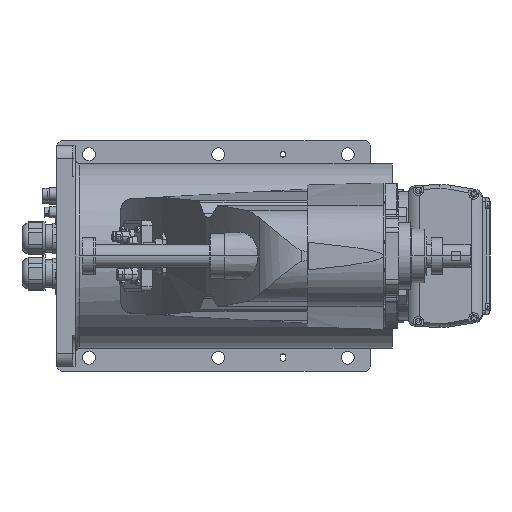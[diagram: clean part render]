
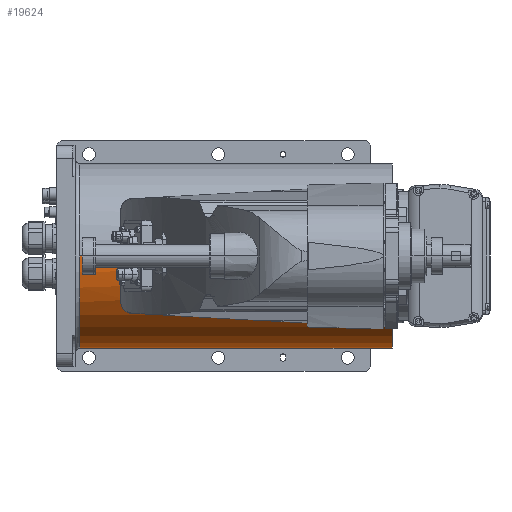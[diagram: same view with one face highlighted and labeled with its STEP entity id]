
A CAD part, left-side view. The second image highlights one B-rep face of the part: STEP entity #19624.
In plain terms, the highlighted cylindrical face has radius 100 mm (diameter 200 mm), a partial arc.
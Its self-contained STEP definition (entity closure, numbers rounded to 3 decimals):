
#9508 = VERTEX_POINT( '', #27935 );
#9622 = EDGE_CURVE( '', #22322, #19866, #28064, .T. );
#10168 = VERTEX_POINT( '', #28664 );
#11022 = VERTEX_POINT( '', #29621 );
#12300 = EDGE_CURVE( '', #12914, #17702, #31058, .T. );
#12550 = EDGE_CURVE( '', #21166, #11022, #31332, .T. );
#12914 = VERTEX_POINT( '', #31732 );
#13148 = EDGE_CURVE( '', #15780, #22428, #31994, .T. );
#14824 = EDGE_CURVE( '', #23386, #22322, #33875, .T. );
#15780 = VERTEX_POINT( '', #34934 );
#16878 = VERTEX_POINT( '', #36173 );
#17702 = VERTEX_POINT( '', #37079 );
#18442 = EDGE_CURVE( '', #21010, #25130, #37943, .T. );
#19118 = EDGE_CURVE( '', #17702, #25622, #38687, .T. );
#19624 = ADVANCED_FACE( '', ( #39234 ), #39235, .T. );
#19866 = VERTEX_POINT( '', #39503 );
#20016 = EDGE_CURVE( '', #11022, #16878, #39667, .T. );
#20558 = EDGE_CURVE( '', #22428, #10168, #40273, .T. );
#21010 = VERTEX_POINT( '', #40790 );
#21166 = VERTEX_POINT( '', #40963 );
#22184 = EDGE_CURVE( '', #23386, #25310, #42093, .T. );
#22322 = VERTEX_POINT( '', #42248 );
#22428 = VERTEX_POINT( '', #42367 );
#23104 = EDGE_CURVE( '', #25622, #25130, #43126, .T. );
#23386 = VERTEX_POINT( '', #43448 );
#23424 = EDGE_CURVE( '', #16878, #12914, #43487, .T. );
#23600 = EDGE_CURVE( '', #19866, #9508, #43688, .T. );
#25130 = VERTEX_POINT( '', #45421 );
#25310 = VERTEX_POINT( '', #45617 );
#25622 = VERTEX_POINT( '', #45962 );
#26014 = EDGE_CURVE( '', #21010, #25310, #46394, .T. );
#26042 = EDGE_CURVE( '', #10168, #9508, #46426, .T. );
#27152 = EDGE_CURVE( '', #15780, #21166, #47663, .T. );
#27935 = CARTESIAN_POINT( '', ( -100., 311.3, 0. ) );
#28064 = LINE( '', #48771, #48772 );
#28664 = CARTESIAN_POINT( '', ( -100., 363., 0. ) );
#29621 = CARTESIAN_POINT( '', ( 70.42, 64., -71. ) );
#31058 = CIRCLE( '', #53166, 100. );
#31332 = B_SPLINE_CURVE_WITH_KNOTS( '', 3, ( #53556, #53557, #53558, #53559, #53560, #53561, #53562, #53563, #53564, #53565, #53566, #53567, #53568, #53569, #53570, #53571, #53572, #53573 ), .UNSPECIFIED., .F., .F., ( 4, 2, 2, 2, 2, 2, 2, 2, 4 ), ( 0., 0.75, 1.5, 2.25, 3., 4.12, 5.24, 6.36, 7.48 ), .UNSPECIFIED. );
#31732 = CARTESIAN_POINT( '', ( 75.993, 62., -65. ) );
#31994 = CIRCLE( '', #54529, 100. );
#33875 = CIRCLE( '', #57241, 100. );
#34934 = CARTESIAN_POINT( '', ( 66.144, 363., -75. ) );
#36173 = CARTESIAN_POINT( '', ( 75.993, 64., -65. ) );
#37079 = CARTESIAN_POINT( '', ( 89.303, 62., -45. ) );
#37943 = LINE( '', #63008, #63009 );
#38687 = LINE( '', #64042, #64043 );
#39234 = FACE_OUTER_BOUND( '', #64823, .T. );
#39235 = CYLINDRICAL_SURFACE( '', #64824, 100. );
#39503 = CARTESIAN_POINT( '', ( -88., 311.3, -47.497 ) );
#39667 = CIRCLE( '', #65400, 100. );
#40273 = CIRCLE( '', #66299, 100. );
#40790 = CARTESIAN_POINT( '', ( 100., 25., 0. ) );
#40963 = CARTESIAN_POINT( '', ( 66.144, 68., -75. ) );
#42093 = LINE( '', #68926, #68927 );
#42248 = CARTESIAN_POINT( '', ( -88., 218.3, -47.497 ) );
#42367 = CARTESIAN_POINT( '', ( 0., 363., -100. ) );
#43126 = CIRCLE( '', #70465, 100. );
#43448 = CARTESIAN_POINT( '', ( -100., 218.3, 0. ) );
#43487 = LINE( '', #70941, #70942 );
#43688 = CIRCLE( '', #71201, 100. );
#45421 = CARTESIAN_POINT( '', ( 100., 64., 0. ) );
#45617 = CARTESIAN_POINT( '', ( -100., 25., 0. ) );
#45962 = CARTESIAN_POINT( '', ( 89.303, 64., -45. ) );
#46394 = CIRCLE( '', #75010, 100. );
#46426 = LINE( '', #75051, #75052 );
#47663 = LINE( '', #76868, #76869 );
#48771 = CARTESIAN_POINT( '', ( -88., 264.8, -47.497 ) );
#48772 = VECTOR( '', #78083, 1. );
#53166 = AXIS2_PLACEMENT_3D( '', #81519, #81520, #81521 );
#53556 = CARTESIAN_POINT( '', ( 66.144, 68., -75. ) );
#53557 = CARTESIAN_POINT( '', ( 66.144, 67.75, -75. ) );
#53558 = CARTESIAN_POINT( '', ( 66.171, 67.497, -74.976 ) );
#53559 = CARTESIAN_POINT( '', ( 66.277, 67.005, -74.882 ) );
#53560 = CARTESIAN_POINT( '', ( 66.356, 66.766, -74.812 ) );
#53561 = CARTESIAN_POINT( '', ( 66.555, 66.315, -74.636 ) );
#53562 = CARTESIAN_POINT( '', ( 66.674, 66.103, -74.529 ) );
#53563 = CARTESIAN_POINT( '', ( 66.938, 65.716, -74.292 ) );
#53564 = CARTESIAN_POINT( '', ( 67.082, 65.542, -74.162 ) );
#53565 = CARTESIAN_POINT( '', ( 67.446, 65.158, -73.831 ) );
#53566 = CARTESIAN_POINT( '', ( 67.688, 64.954, -73.61 ) );
#53567 = CARTESIAN_POINT( '', ( 68.203, 64.604, -73.134 ) );
#53568 = CARTESIAN_POINT( '', ( 68.475, 64.457, -72.879 ) );
#53569 = CARTESIAN_POINT( '', ( 69.031, 64.224, -72.352 ) );
#53570 = CARTESIAN_POINT( '', ( 69.316, 64.139, -72.08 ) );
#53571 = CARTESIAN_POINT( '', ( 69.877, 64.026, -71.535 ) );
#53572 = CARTESIAN_POINT( '', ( 70.155, 64., -71.263 ) );
#53573 = CARTESIAN_POINT( '', ( 70.42, 64., -71. ) );
#54529 = AXIS2_PLACEMENT_3D( '', #82565, #82566, #82567 );
#57241 = AXIS2_PLACEMENT_3D( '', #84820, #84821, #84822 );
#63008 = CARTESIAN_POINT( '', ( 100., 194., 0. ) );
#63009 = VECTOR( '', #89543, 1. );
#64042 = CARTESIAN_POINT( '', ( 89.303, 63., -45. ) );
#64043 = VECTOR( '', #90347, 1. );
#64823 = EDGE_LOOP( '', ( #90884, #90885, #90886, #90887, #90888, #90889, #90890, #90891, #90892, #90893, #90894, #90895, #90896, #90897, #90898, #90899 ) );
#64824 = AXIS2_PLACEMENT_3D( '', #90900, #90901, #90902 );
#65400 = AXIS2_PLACEMENT_3D( '', #91341, #91342, #91343 );
#66299 = AXIS2_PLACEMENT_3D( '', #92029, #92030, #92031 );
#68926 = CARTESIAN_POINT( '', ( -100., 194., 0. ) );
#68927 = VECTOR( '', #94091, 1. );
#70465 = AXIS2_PLACEMENT_3D( '', #95329, #95330, #95331 );
#70941 = CARTESIAN_POINT( '', ( 75.993, 63., -65. ) );
#70942 = VECTOR( '', #95701, 1. );
#71201 = AXIS2_PLACEMENT_3D( '', #95930, #95931, #95932 );
#75010 = AXIS2_PLACEMENT_3D( '', #99159, #99160, #99161 );
#75051 = CARTESIAN_POINT( '', ( -100., 194., 0. ) );
#75052 = VECTOR( '', #99203, 1. );
#76868 = CARTESIAN_POINT( '', ( 66.144, 215.5, -75. ) );
#76869 = VECTOR( '', #100657, 1. );
#78083 = DIRECTION( '', ( 0., 1., 0. ) );
#81519 = CARTESIAN_POINT( '', ( 0., 62., 0. ) );
#81520 = DIRECTION( '', ( 0., -1., 0. ) );
#81521 = DIRECTION( '', ( 1., 0., 0. ) );
#82565 = CARTESIAN_POINT( '', ( 0., 363., 0. ) );
#82566 = DIRECTION( '', ( 0., 1., 0. ) );
#82567 = DIRECTION( '', ( 1., 0., 0. ) );
#84820 = CARTESIAN_POINT( '', ( 0., 218.3, 0. ) );
#84821 = DIRECTION( '', ( 0., -1., 0. ) );
#84822 = DIRECTION( '', ( 1., 0., 0. ) );
#89543 = DIRECTION( '', ( 0., 1., 0. ) );
#90347 = DIRECTION( '', ( 0., 1., 0. ) );
#90884 = ORIENTED_EDGE( '', *, *, #18442, .F. );
#90885 = ORIENTED_EDGE( '', *, *, #26014, .T. );
#90886 = ORIENTED_EDGE( '', *, *, #22184, .F. );
#90887 = ORIENTED_EDGE( '', *, *, #14824, .T. );
#90888 = ORIENTED_EDGE( '', *, *, #9622, .T. );
#90889 = ORIENTED_EDGE( '', *, *, #23600, .T. );
#90890 = ORIENTED_EDGE( '', *, *, #26042, .F. );
#90891 = ORIENTED_EDGE( '', *, *, #20558, .F. );
#90892 = ORIENTED_EDGE( '', *, *, #13148, .F. );
#90893 = ORIENTED_EDGE( '', *, *, #27152, .T. );
#90894 = ORIENTED_EDGE( '', *, *, #12550, .T. );
#90895 = ORIENTED_EDGE( '', *, *, #20016, .T. );
#90896 = ORIENTED_EDGE( '', *, *, #23424, .T. );
#90897 = ORIENTED_EDGE( '', *, *, #12300, .T. );
#90898 = ORIENTED_EDGE( '', *, *, #19118, .T. );
#90899 = ORIENTED_EDGE( '', *, *, #23104, .T. );
#90900 = CARTESIAN_POINT( '', ( 0., 194., 0. ) );
#90901 = DIRECTION( '', ( 0., -1., 0. ) );
#90902 = DIRECTION( '', ( 1., 0., 0. ) );
#91341 = CARTESIAN_POINT( '', ( 0., 64., 0. ) );
#91342 = DIRECTION( '', ( 0., -1., 0. ) );
#91343 = DIRECTION( '', ( 1., 0., 0. ) );
#92029 = CARTESIAN_POINT( '', ( 0., 363., 0. ) );
#92030 = DIRECTION( '', ( 0., 1., 0. ) );
#92031 = DIRECTION( '', ( 1., 0., 0. ) );
#94091 = DIRECTION( '', ( 0., -1., 0. ) );
#95329 = CARTESIAN_POINT( '', ( 0., 64., 0. ) );
#95330 = DIRECTION( '', ( 0., -1., 0. ) );
#95331 = DIRECTION( '', ( 1., 0., 0. ) );
#95701 = DIRECTION( '', ( 0., -1., 0. ) );
#95930 = CARTESIAN_POINT( '', ( 0., 311.3, 0. ) );
#95931 = DIRECTION( '', ( 0., 1., 0. ) );
#95932 = DIRECTION( '', ( 1., 0., 0. ) );
#99159 = CARTESIAN_POINT( '', ( 0., 25., 0. ) );
#99160 = DIRECTION( '', ( 0., 1., 0. ) );
#99161 = DIRECTION( '', ( 1., 0., 0. ) );
#99203 = DIRECTION( '', ( 0., -1., 0. ) );
#100657 = DIRECTION( '', ( 0., -1., 0. ) );
